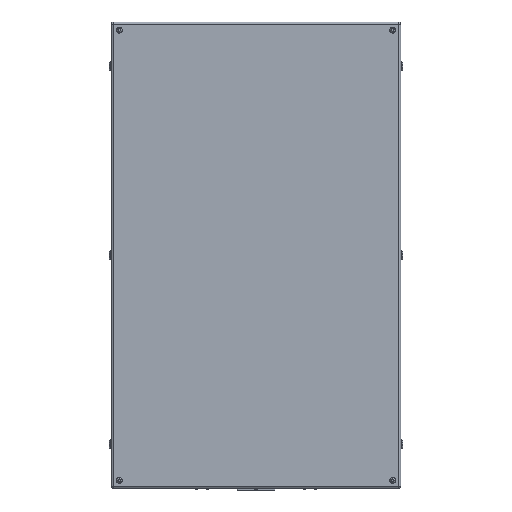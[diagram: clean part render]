
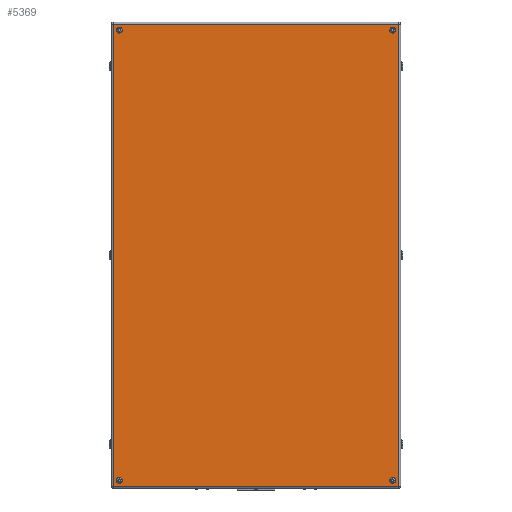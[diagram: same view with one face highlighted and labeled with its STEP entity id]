
A CAD part, front view. The second image highlights one B-rep face of the part: STEP entity #5369.
In plain terms, the highlighted planar face has unit normal (0, -1, 0).
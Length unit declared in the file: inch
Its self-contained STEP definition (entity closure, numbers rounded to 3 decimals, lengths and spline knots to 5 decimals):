
#129 = DIRECTION ( 'NONE',  ( 0., -1., 0. ) ) ;
#322 = DIRECTION ( 'NONE',  ( 0., -1., 0. ) ) ;
#349 = DIRECTION ( 'NONE',  ( 0., 0., -1. ) ) ;
#399 = FACE_OUTER_BOUND ( 'NONE', #12592, .T. ) ;
#641 = CIRCLE ( 'NONE', #9090, 0.37402 ) ;
#824 = CARTESIAN_POINT ( 'NONE',  ( 17., -12., -28.37402 ) ) ;
#922 = ORIENTED_EDGE ( 'NONE', *, *, #7561, .F. ) ;
#1057 = VERTEX_POINT ( 'NONE', #7975 ) ;
#1363 = DIRECTION ( 'NONE',  ( 0., -1., 0. ) ) ;
#1372 = CARTESIAN_POINT ( 'NONE',  ( -17.734, -12., 28.734 ) ) ;
#1453 = CARTESIAN_POINT ( 'NONE',  ( -17., -12., 28. ) ) ;
#1690 = ORIENTED_EDGE ( 'NONE', *, *, #13619, .T. ) ;
#1728 = VERTEX_POINT ( 'NONE', #824 ) ;
#1830 = FACE_BOUND ( 'NONE', #15214, .T. ) ;
#1947 = VERTEX_POINT ( 'NONE', #16336 ) ;
#1969 = AXIS2_PLACEMENT_3D ( 'NONE', #4143, #322, #9432 ) ;
#1982 = EDGE_CURVE ( 'NONE', #1947, #10623, #5387, .T. ) ;
#2140 = CARTESIAN_POINT ( 'NONE',  ( -17., -12., -28. ) ) ;
#2168 = ORIENTED_EDGE ( 'NONE', *, *, #2244, .F. ) ;
#2244 = EDGE_CURVE ( 'NONE', #1057, #1728, #641, .T. ) ;
#2252 = ORIENTED_EDGE ( 'NONE', *, *, #1982, .T. ) ;
#2841 = DIRECTION ( 'NONE',  ( 0., 0., 1. ) ) ;
#2937 = DIRECTION ( 'NONE',  ( 0., -1., 0. ) ) ;
#3103 = CIRCLE ( 'NONE', #14516, 0.37402 ) ;
#3459 = EDGE_CURVE ( 'NONE', #15069, #6906, #6666, .T. ) ;
#3530 = AXIS2_PLACEMENT_3D ( 'NONE', #2140, #8423, #7028 ) ;
#3564 = ORIENTED_EDGE ( 'NONE', *, *, #15224, .F. ) ;
#4007 = CARTESIAN_POINT ( 'NONE',  ( 17., -12., -28. ) ) ;
#4069 = VECTOR ( 'NONE', #15403, 39.37008 ) ;
#4143 = CARTESIAN_POINT ( 'NONE',  ( 0., -12., 0. ) ) ;
#4457 = ORIENTED_EDGE ( 'NONE', *, *, #6265, .F. ) ;
#4961 = VERTEX_POINT ( 'NONE', #12327 ) ;
#5230 = CARTESIAN_POINT ( 'NONE',  ( -17., -12., 28.37402 ) ) ;
#5369 = ADVANCED_FACE ( 'NONE', ( #1830, #7961, #11683, #10685, #399 ), #14356, .T. ) ;
#5387 = LINE ( 'NONE', #11750, #4069 ) ;
#5436 = EDGE_LOOP ( 'NONE', ( #12381, #5558 ) ) ;
#5558 = ORIENTED_EDGE ( 'NONE', *, *, #3459, .F. ) ;
#5657 = VECTOR ( 'NONE', #14425, 39.37008 ) ;
#5932 = AXIS2_PLACEMENT_3D ( 'NONE', #10325, #10493, #8030 ) ;
#6084 = CARTESIAN_POINT ( 'NONE',  ( 17.734, -12., -28.734 ) ) ;
#6190 = CARTESIAN_POINT ( 'NONE',  ( 17.734, -12., 28.734 ) ) ;
#6265 = EDGE_CURVE ( 'NONE', #4961, #9584, #6434, .T. ) ;
#6314 = EDGE_CURVE ( 'NONE', #10646, #10322, #12815, .T. ) ;
#6333 = ORIENTED_EDGE ( 'NONE', *, *, #8084, .T. ) ;
#6348 = CARTESIAN_POINT ( 'NONE',  ( -17., -12., -28. ) ) ;
#6358 = CIRCLE ( 'NONE', #8479, 0.37402 ) ;
#6434 = CIRCLE ( 'NONE', #5932, 0.37402 ) ;
#6476 = CARTESIAN_POINT ( 'NONE',  ( -17., -12., -28.37402 ) ) ;
#6666 = CIRCLE ( 'NONE', #8784, 0.37402 ) ;
#6906 = VERTEX_POINT ( 'NONE', #5230 ) ;
#7028 = DIRECTION ( 'NONE',  ( 0., 0., -1. ) ) ;
#7088 = EDGE_LOOP ( 'NONE', ( #3564, #7724 ) ) ;
#7468 = LINE ( 'NONE', #15263, #9655 ) ;
#7561 = EDGE_CURVE ( 'NONE', #1728, #1057, #14419, .T. ) ;
#7692 = DIRECTION ( 'NONE',  ( 0., -1., 0. ) ) ;
#7724 = ORIENTED_EDGE ( 'NONE', *, *, #6314, .F. ) ;
#7740 = VERTEX_POINT ( 'NONE', #6190 ) ;
#7867 = VERTEX_POINT ( 'NONE', #1372 ) ;
#7961 = FACE_BOUND ( 'NONE', #12084, .T. ) ;
#7975 = CARTESIAN_POINT ( 'NONE',  ( 17., -12., -27.62598 ) ) ;
#8030 = DIRECTION ( 'NONE',  ( 0., 0., 1. ) ) ;
#8056 = DIRECTION ( 'NONE',  ( 0., -1., 0. ) ) ;
#8084 = EDGE_CURVE ( 'NONE', #7740, #7867, #7468, .T. ) ;
#8385 = CARTESIAN_POINT ( 'NONE',  ( 17.734, -12., 28.734 ) ) ;
#8423 = DIRECTION ( 'NONE',  ( 0., -1., 0. ) ) ;
#8479 = AXIS2_PLACEMENT_3D ( 'NONE', #14362, #8056, #10349 ) ;
#8784 = AXIS2_PLACEMENT_3D ( 'NONE', #1453, #2937, #349 ) ;
#8812 = CARTESIAN_POINT ( 'NONE',  ( 17., -12., 28.37402 ) ) ;
#9014 = EDGE_CURVE ( 'NONE', #6906, #15069, #3103, .T. ) ;
#9085 = LINE ( 'NONE', #10585, #5657 ) ;
#9090 = AXIS2_PLACEMENT_3D ( 'NONE', #4007, #1363, #2841 ) ;
#9238 = ORIENTED_EDGE ( 'NONE', *, *, #15906, .F. ) ;
#9432 = DIRECTION ( 'NONE',  ( 0., 0., -1. ) ) ;
#9584 = VERTEX_POINT ( 'NONE', #8812 ) ;
#9655 = VECTOR ( 'NONE', #12543, 39.37008 ) ;
#9774 = DIRECTION ( 'NONE',  ( 0., 0., 1. ) ) ;
#10322 = VERTEX_POINT ( 'NONE', #11543 ) ;
#10325 = CARTESIAN_POINT ( 'NONE',  ( 17., -12., 28. ) ) ;
#10349 = DIRECTION ( 'NONE',  ( 0., 0., 1. ) ) ;
#10422 = AXIS2_PLACEMENT_3D ( 'NONE', #12676, #7692, #12759 ) ;
#10487 = CARTESIAN_POINT ( 'NONE',  ( -17., -12., 27.62598 ) ) ;
#10493 = DIRECTION ( 'NONE',  ( 0., -1., 0. ) ) ;
#10555 = LINE ( 'NONE', #8385, #13833 ) ;
#10585 = CARTESIAN_POINT ( 'NONE',  ( -17.734, -12., -28.734 ) ) ;
#10623 = VERTEX_POINT ( 'NONE', #6084 ) ;
#10646 = VERTEX_POINT ( 'NONE', #6476 ) ;
#10685 = FACE_BOUND ( 'NONE', #7088, .T. ) ;
#11543 = CARTESIAN_POINT ( 'NONE',  ( -17., -12., -27.62598 ) ) ;
#11683 = FACE_BOUND ( 'NONE', #5436, .T. ) ;
#11750 = CARTESIAN_POINT ( 'NONE',  ( 17.734, -12., -28.734 ) ) ;
#11751 = DIRECTION ( 'NONE',  ( 0., -1., 0. ) ) ;
#12084 = EDGE_LOOP ( 'NONE', ( #2168, #922 ) ) ;
#12327 = CARTESIAN_POINT ( 'NONE',  ( 17., -12., 27.62598 ) ) ;
#12381 = ORIENTED_EDGE ( 'NONE', *, *, #9014, .F. ) ;
#12543 = DIRECTION ( 'NONE',  ( -1., 0., 0. ) ) ;
#12592 = EDGE_LOOP ( 'NONE', ( #1690, #6333, #12911, #2252 ) ) ;
#12676 = CARTESIAN_POINT ( 'NONE',  ( 17., -12., -28. ) ) ;
#12759 = DIRECTION ( 'NONE',  ( 0., 0., 1. ) ) ;
#12815 = CIRCLE ( 'NONE', #3530, 0.37402 ) ;
#12911 = ORIENTED_EDGE ( 'NONE', *, *, #14100, .T. ) ;
#13619 = EDGE_CURVE ( 'NONE', #10623, #7740, #10555, .T. ) ;
#13742 = CIRCLE ( 'NONE', #16138, 0.37402 ) ;
#13833 = VECTOR ( 'NONE', #9774, 39.37008 ) ;
#14100 = EDGE_CURVE ( 'NONE', #7867, #1947, #9085, .T. ) ;
#14345 = DIRECTION ( 'NONE',  ( 0., 0., -1. ) ) ;
#14356 = PLANE ( 'NONE',  #1969 ) ;
#14362 = CARTESIAN_POINT ( 'NONE',  ( 17., -12., 28. ) ) ;
#14419 = CIRCLE ( 'NONE', #10422, 0.37402 ) ;
#14425 = DIRECTION ( 'NONE',  ( 0., 0., -1. ) ) ;
#14516 = AXIS2_PLACEMENT_3D ( 'NONE', #16280, #11751, #14345 ) ;
#15069 = VERTEX_POINT ( 'NONE', #10487 ) ;
#15214 = EDGE_LOOP ( 'NONE', ( #9238, #4457 ) ) ;
#15224 = EDGE_CURVE ( 'NONE', #10322, #10646, #13742, .T. ) ;
#15263 = CARTESIAN_POINT ( 'NONE',  ( -17.734, -12., 28.734 ) ) ;
#15303 = DIRECTION ( 'NONE',  ( 0., 0., -1. ) ) ;
#15403 = DIRECTION ( 'NONE',  ( 1., 0., 0. ) ) ;
#15906 = EDGE_CURVE ( 'NONE', #9584, #4961, #6358, .T. ) ;
#16138 = AXIS2_PLACEMENT_3D ( 'NONE', #6348, #129, #15303 ) ;
#16280 = CARTESIAN_POINT ( 'NONE',  ( -17., -12., 28. ) ) ;
#16336 = CARTESIAN_POINT ( 'NONE',  ( -17.734, -12., -28.734 ) ) ;
